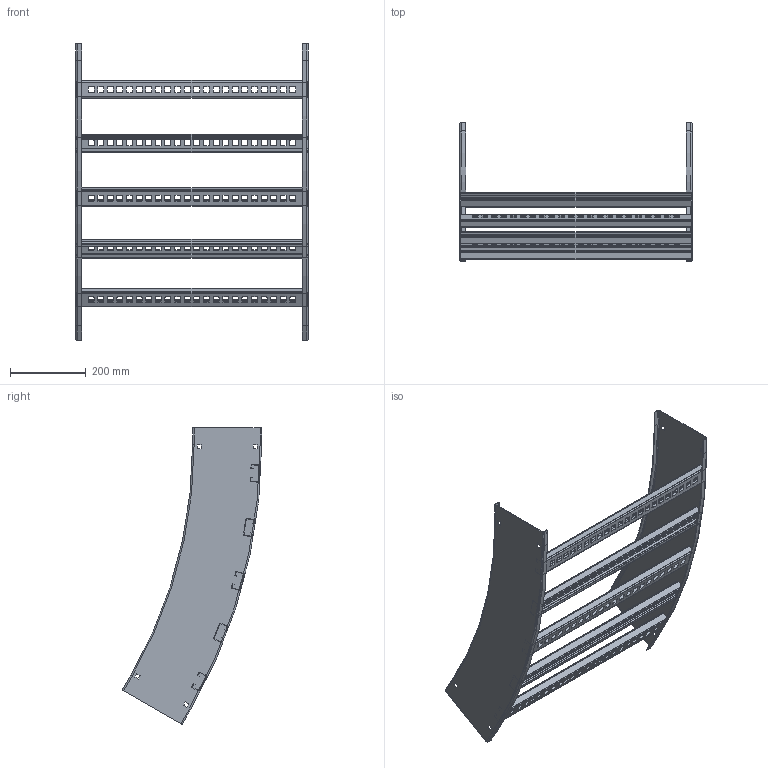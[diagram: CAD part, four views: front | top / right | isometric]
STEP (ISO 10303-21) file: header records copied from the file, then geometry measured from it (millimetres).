
FILE_DESCRIPTION((''),'2;1');
FILE_NAME('AUF724VVI3048_ASM','2010-02-01T',('erouzier'),(''),'PRO/ENGINEER BY PARAMETRIC TECHNOLOGY CORPORATION, 2008510','PRO/ENGINEER BY PARAMETRIC TECHNOLOGY CORPORATION, 2008510','');
FILE_SCHEMA(('CONFIG_CONTROL_DESIGN'));
Length unit declared in the file: inch
Products named in the file (3): CDS001419_7_30_48; CDS002159L24-P; AUF724VVI3048_ASM
Assembly tree (7 placements, depth 2):
  AUF724VVI3048_ASM
    CDS001419_7_30_48  x2
    CDS002159L24-P  x5
Bounding box: 613.71 x 367.99 x 783.76 mm (x, y, z)
Volume: 1051831.5 mm3; surface area: 1323319.2 mm2
Topology: 7 solids, 7 shells, 1146 faces, 3332 edges, 2200 vertices
Faces by surface type: plane 619, cylinder 519, torus 8
Entity records: 8800 total; most frequent: DIRECTION 1522, CARTESIAN_POINT 1510, ORIENTED_EDGE 1496, EDGE_CURVE 748, VECTOR 522, LINE 522, AXIS2_PLACEMENT_3D 500, VERTEX_POINT 488
